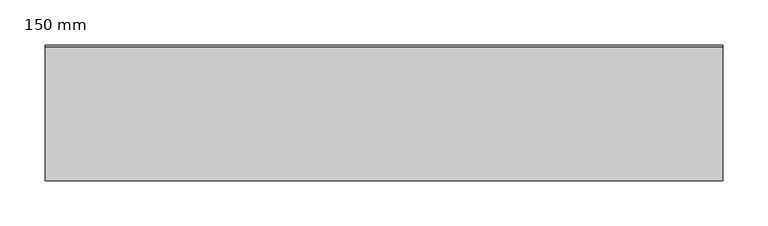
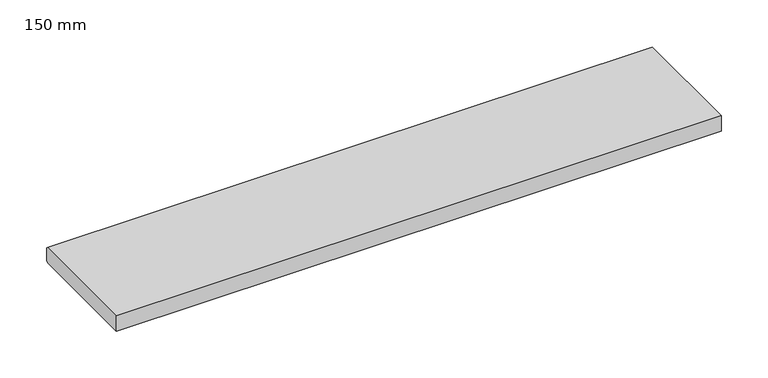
"""IFC4 building model written with IfcOpenShell, lengths in millimetres: proxy geometry, 400_35_NS_vensterbank : 150 mm."""

from ifc_helpers import new_model, si_unit, frame, origin, place, context, project, spatial, polyline, outline, extrude, source, transform, mapped, element, save


def proxy_150_mm_c4bdd993(model_context):
    return source(origin(), model_context, "Body", "SweptSolid", [
        extrude(outline(polyline([(0.0, 0.0), (0.0, 20.0), (148.0, 20.0), (150.0, 18.0), (150.0, 2.0), (148.0, 0.0), (0.0, 0.0)])), frame((-375.0, 0.0, 0.0), z_axis=(1.0, 0.0, 0.0), x_axis=(0.0, 1.0, 0.0)), (0.0, 0.0, 1.0), 750.0),
    ])


if __name__ == "__main__":
    model = new_model("IFC4")
    model_context = context("Model", 3, world=origin())
    ifc_project = project(units=[si_unit("LENGTHUNIT", "METRE", prefix="MILLI")], contexts=[model_context])
    site = spatial("IfcSite", under=ifc_project)
    building = spatial("IfcBuilding", under=site)
    placement = place(None, origin())
    proxy_150_mm_shape = proxy_150_mm_c4bdd993(model_context)
    element("IfcBuildingElementProxy", 1, Name="400_35_NS_vensterbank : 150 mm", ObjectType="400_35_NS_vensterbank : 150 mm", at=placement, inside=building, context=model_context, shape_type="MappedRepresentation", body=[
        mapped(proxy_150_mm_shape, transform((0.0, 0.0, 0.0), x_axis=(1.0, 0.0, 0.0), y_axis=(0.0, 1.0, 0.0), z_axis=(0.0, 0.0, 1.0))),
    ])
    save(model, "model.ifc")
